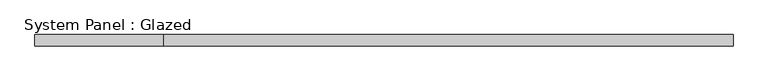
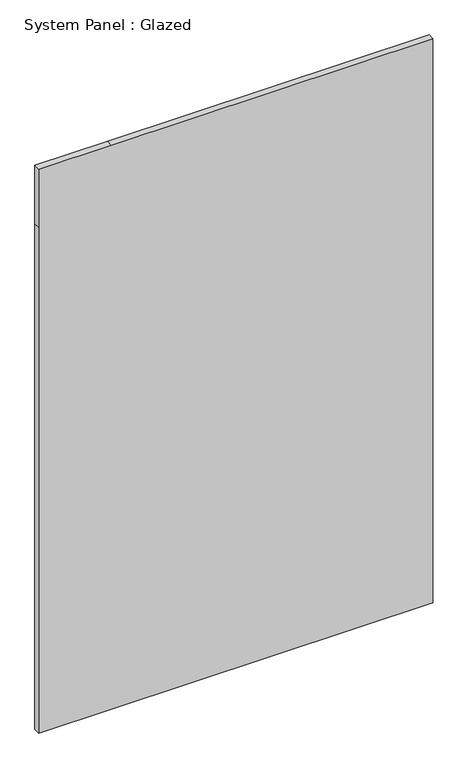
"""IFC4 building model written with IfcOpenShell, lengths in millimetres: plate geometry, System Panel : Glazed."""

import ifcopenshell
import ifcopenshell.guid

model = None  # the IFC model being written
_history = None  # IfcOwnerHistory: only IFC2X3 demands one
_inside = {}  # id of a spatial element -> (the spatial element, [elements in it])
_under = {}  # id of a project, library or spatial element -> (it, [spatial elements below it])
_declared = {}  # id of a project -> (the project, [libraries it declares])
_typed = {}  # id of a type object -> (the type object, [elements of that type])
_made_of = {}  # id of a material, layer set ... -> (it, [elements and type objects made of it])


def new_model(schema):
    """Start an empty IFC model of exactly this schema.

    Asked for "IFC4X3", IfcOpenShell would pick the latest addendum, in which some entities
    have other attributes; the version numbers below select the first issue.
    IFC2X3 requires an IfcOwnerHistory on every rooted entity: one is made here for all.
    """
    global model, _history
    if schema == "IFC4X3":
        model = ifcopenshell.file(schema_version=(4, 3, 0, 0))
    else:
        model = ifcopenshell.file(schema=schema)
    _inside.clear()
    _under.clear()
    _declared.clear()
    _typed.clear()
    _made_of.clear()
    _history = None
    if model.schema == "IFC2X3":
        org = make("IfcOrganization", Name="unknown")
        user = make(
            "IfcPersonAndOrganization",
            ThePerson=make("IfcPerson", FamilyName="unknown"),
            TheOrganization=org,
        )
        app = make(
            "IfcApplication",
            ApplicationDeveloper=org,
            Version="unknown",
            ApplicationFullName="unknown",
            ApplicationIdentifier="unknown",
        )
        _history = make(
            "IfcOwnerHistory",
            OwningUser=user,
            OwningApplication=app,
            ChangeAction="ADDED",
            CreationDate=0,
        )
    return model


def make(cls, **values):
    """One entity of the class cls with the attributes given. An attribute that is None is left unset."""
    return model.create_entity(
        cls, **{name: value for name, value in values.items() if value is not None}
    )


def rooted(cls, **values):
    """An entity with a GlobalId (a new one), such as an element, a storey or a relation."""
    return make(cls, GlobalId=ifcopenshell.guid.new(), OwnerHistory=_history, **values)


def si_unit(unit_type, name, prefix=None):
    """IfcSIUnit, for example si_unit("LENGTHUNIT", "METRE", prefix="MILLI")."""
    return make("IfcSIUnit", UnitType=unit_type, Prefix=prefix, Name=name)


def assignment(units):
    """IfcUnitAssignment: the units of a project."""
    return None if units is None else make("IfcUnitAssignment", Units=units)


def point(xyz):
    """IfcCartesianPoint."""
    return None if xyz is None else make("IfcCartesianPoint", Coordinates=xyz)


def direction(xyz):
    """IfcDirection."""
    return None if xyz is None else make("IfcDirection", DirectionRatios=xyz)


def frame(location, z_axis=None, x_axis=None):
    """IfcAxis2Placement3D, a coordinate frame: its origin and axes. An axis left out is left unset."""
    return make(
        "IfcAxis2Placement3D",
        Location=point(location),
        Axis=direction(z_axis),
        RefDirection=direction(x_axis),
    )


def origin():
    """The frame at (0, 0, 0) with its axes left unset."""
    return frame((0.0, 0.0, 0.0))


def place(relative_to, where):
    """IfcLocalPlacement: puts the frame where relative to a parent placement (None: the world)."""
    return make(
        "IfcLocalPlacement", PlacementRelTo=relative_to, RelativePlacement=where
    )


def context(
    kind, dimensions, precision=None, world=None, true_north=None, identifier=None
):
    """IfcGeometricRepresentationContext, for example the 3D "Model" context."""
    return make(
        "IfcGeometricRepresentationContext",
        ContextIdentifier=identifier,
        ContextType=kind,
        CoordinateSpaceDimension=dimensions,
        Precision=precision,
        WorldCoordinateSystem=world,
        TrueNorth=true_north,
    )


def project(units=None, contexts=None):
    """IfcProject with its units and contexts."""
    return rooted(
        "IfcProject",
        Name="project",
        RepresentationContexts=contexts,
        UnitsInContext=assignment(units),
    )


def spatial(cls, under=None, at=None, **own):
    """A site, building, storey or space (cls), placed at a placement, below another one or the project."""
    s = rooted(cls, ObjectPlacement=at, **own)
    if under is not None:
        _under.setdefault(under.id(), (under, []))[1].append(s)
    return s


def polyline(points):
    """IfcPolyline through the points."""
    return make("IfcPolyline", Points=[point(p) for p in points])


def outline(outer, holes=None, kind="AREA"):
    """IfcArbitraryClosedProfileDef: a profile drawn as a closed curve; with holes, ...WithVoids."""
    if holes is None:
        return make("IfcArbitraryClosedProfileDef", ProfileType=kind, OuterCurve=outer)
    return make(
        "IfcArbitraryProfileDefWithVoids",
        ProfileType=kind,
        OuterCurve=outer,
        InnerCurves=holes,
    )


def extrude(swept, where, along, depth):
    """IfcExtrudedAreaSolid: the profile swept, set in the frame where, extruded along a direction by depth."""
    return make(
        "IfcExtrudedAreaSolid",
        SweptArea=swept,
        Position=where,
        ExtrudedDirection=direction(along),
        Depth=depth,
    )


def shape(context_of_items, identifier, shape_type, items):
    """IfcShapeRepresentation: the items that make up one representation, for example the "Body"."""
    return make(
        "IfcShapeRepresentation",
        ContextOfItems=context_of_items,
        RepresentationIdentifier=identifier,
        RepresentationType=shape_type,
        Items=items,
    )


def source(mapping_origin, context_of_items, identifier, shape_type, items):
    """IfcRepresentationMap: a shape defined once, which mapped items show again and again."""
    return make(
        "IfcRepresentationMap",
        MappingOrigin=mapping_origin,
        MappedRepresentation=shape(context_of_items, identifier, shape_type, items),
    )


def transform(
    local_origin,
    x_axis=None,
    y_axis=None,
    z_axis=None,
    scale=None,
    scale2=None,
    scale3=None,
    uniform=True,
):
    """IfcCartesianTransformationOperator3D, or its non-uniform kind. x_axis, y_axis, z_axis: its Axis1, 2, 3."""
    if uniform:
        return make(
            "IfcCartesianTransformationOperator3D",
            Axis1=direction(x_axis),
            Axis2=direction(y_axis),
            LocalOrigin=point(local_origin),
            Scale=scale,
            Axis3=direction(z_axis),
        )
    return make(
        "IfcCartesianTransformationOperator3DnonUniform",
        Axis1=direction(x_axis),
        Axis2=direction(y_axis),
        LocalOrigin=point(local_origin),
        Scale=scale,
        Axis3=direction(z_axis),
        Scale2=scale2,
        Scale3=scale3,
    )


def mapped(mapping_source, mapping_target):
    """IfcMappedItem: shows the shape of a source again, moved by a transform."""
    return make(
        "IfcMappedItem", MappingSource=mapping_source, MappingTarget=mapping_target
    )


def made_of(thing, what):
    """Note that an element or type object is made of a material, layer set ...; save() writes the relation."""
    if what is not None:
        _made_of.setdefault(what.id(), (what, []))[1].append(thing)
    return thing


def element(
    cls,
    number,
    at=None,
    inside=None,
    cuts=None,
    type_object=None,
    material=None,
    context=None,
    identifier="Body",
    shape_type=None,
    held_by="IfcProductDefinitionShape",
    body=None,
    shapes=None,
    **own,
):
    """One element of the class cls, such as IfcWall. Its Tag is "e" and its number.

    at: its placement. inside: the storey or other place that contains it. cuts: it is an
    opening in that element (IfcRelVoidsElement). A single representation is given by context,
    identifier, shape_type and body (its items); several are given by shapes. held_by: the class
    of the entity that holds the representations. save() writes the other relations.
    """
    e = rooted(cls, Tag="e%d" % number, ObjectPlacement=at, **own)
    if body is not None:
        shapes = [shape(context, identifier, shape_type, body)]
    if shapes is not None:
        e.Representation = make(held_by, Representations=shapes)
    if inside is not None:
        _inside.setdefault(inside.id(), (inside, []))[1].append(e)
    if cuts is not None:
        rooted(
            "IfcRelVoidsElement", RelatingBuildingElement=cuts, RelatedOpeningElement=e
        )
    if type_object is not None:
        _typed.setdefault(type_object.id(), (type_object, []))[1].append(e)
    return made_of(e, material)


def aggregate(whole, parts):
    """IfcRelAggregates: a whole, such as a stair, and the parts it consists of."""
    return rooted("IfcRelAggregates", RelatingObject=whole, RelatedObjects=parts)


def save(model, path):
    """Write the relations noted so far, then the file.

    IfcRelAggregates (storeys below a building ...), IfcRelContainedInSpatialStructure (elements
    in a storey), IfcRelDefinesByType, IfcRelAssociatesMaterial and IfcRelDeclares: one each for
    every whole, place, type object, material and project.
    """
    for whole, parts in _under.values():
        aggregate(whole, parts)
    for where, things in _inside.values():
        rooted(
            "IfcRelContainedInSpatialStructure",
            RelatedElements=things,
            RelatingStructure=where,
        )
    for kind, things in _typed.values():
        rooted("IfcRelDefinesByType", RelatedObjects=things, RelatingType=kind)
    for what, things in _made_of.values():
        rooted("IfcRelAssociatesMaterial", RelatedObjects=things, RelatingMaterial=what)
    for by, libraries in _declared.values():
        rooted("IfcRelDeclares", RelatingContext=by, RelatedDefinitions=libraries)
    model.write(path)


def system_panel_glazed_00df446d(model_context):
    return source(origin(), model_context, "Body", "SweptSolid", [
        extrude(outline(polyline([(0.0, -774.7), (0.0, -488.95), (0.0, 774.7), (2101.85, 774.7), (2343.15, 774.7), (2343.15, -488.95), (2343.15, -774.7), (2101.85, -774.7), (0.0, -774.7)])), frame((0.0, 19.05, 0.0), z_axis=(0.0, 1.0, 0.0), x_axis=(0.0, 0.0, 1.0)), (0.0, 0.0, 1.0), 25.4),
    ])


if __name__ == "__main__":
    model = new_model("IFC4")
    model_context = context("Model", 3, world=origin())
    ifc_project = project(units=[si_unit("LENGTHUNIT", "METRE", prefix="MILLI")], contexts=[model_context])
    site = spatial("IfcSite", under=ifc_project)
    building = spatial("IfcBuilding", under=site)
    placement = place(None, origin())
    system_panel_glazed_shape = system_panel_glazed_00df446d(model_context)
    element("IfcPlate", 1, ObjectType="System Panel : Glazed", at=placement, inside=building, context=model_context, shape_type="MappedRepresentation", body=[
        mapped(system_panel_glazed_shape, transform((0.0, 0.0, 0.0), x_axis=(1.0, 0.0, 0.0), y_axis=(0.0, 1.0, 0.0), z_axis=(0.0, 0.0, 1.0))),
    ])
    save(model, "model.ifc")
